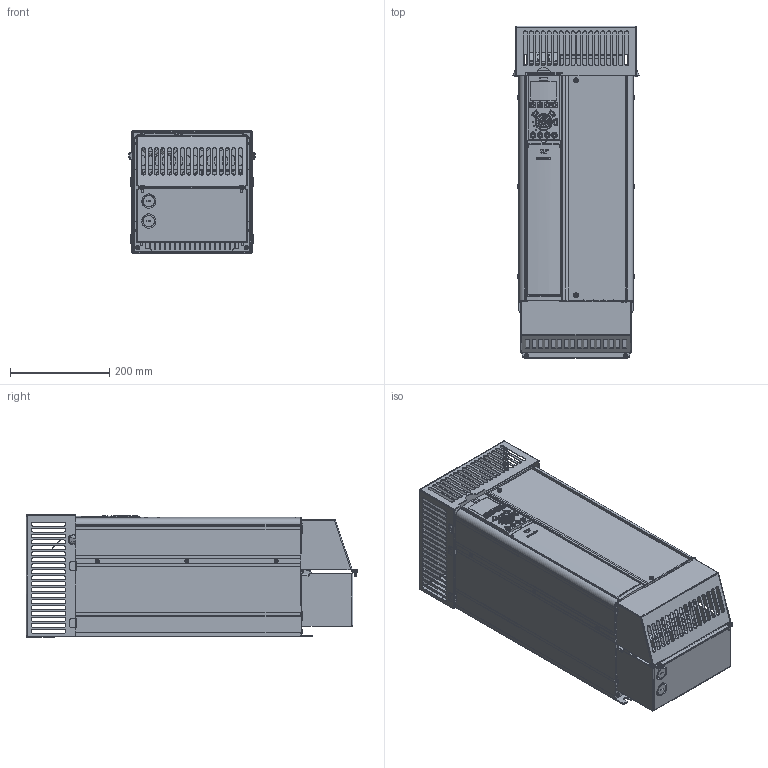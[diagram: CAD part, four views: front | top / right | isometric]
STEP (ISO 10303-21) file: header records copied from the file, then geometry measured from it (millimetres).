
FILE_DESCRIPTION((''),'2;1');
FILE_NAME('DANFOSS-FC300B4NEMA1KIT-OPT-193','2008-07-15T',('Abhilash.Paramesh'),('dan Drives A/S'),'PRO/ENGINEER BY PARAMETRIC TECHNOLOGY CORPORATION, 2007160','PRO/ENGINEER BY PARAMETRIC TECHNOLOGY CORPORATION, 2007160','');
FILE_SCHEMA(('CONFIG_CONTROL_DESIGN', 'GEOMETRIC_VALIDATION_PROPERTIES_MIM'));
Products named in the file (1): DANFOSS-FC300B4NEMA1KIT-OPT-193
Bounding box: 254.72 x 668 x 246 mm (x, y, z)
Volume: 22241805.5 mm3; surface area: 1831558.2 mm2
Topology: 1 solids, 33 shells, 5852 faces, 16009 edges, 10186 vertices
Faces by surface type: plane 3068, cylinder 1671, bspline 601, extrusion 183, torus 163, sphere 92, cone 74
Entity records: 252253 total; most frequent: CARTESIAN_POINT 82827, ORIENTED_EDGE 31852, DIRECTION 25917, EDGE_CURVE 15926, VERTEX_POINT 10186, VECTOR 8945, LINE 8762, AXIS2_PLACEMENT_3D 8486
